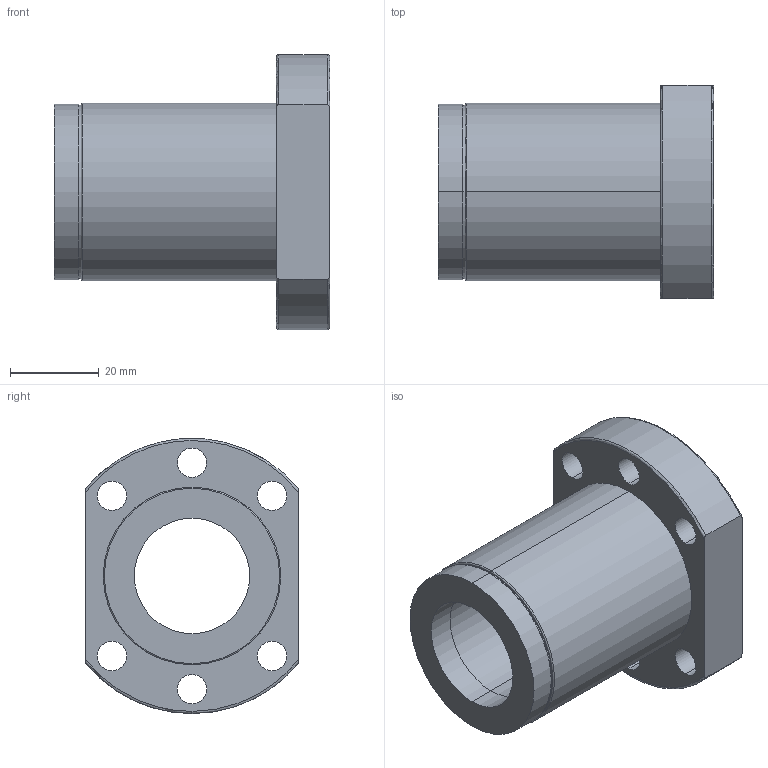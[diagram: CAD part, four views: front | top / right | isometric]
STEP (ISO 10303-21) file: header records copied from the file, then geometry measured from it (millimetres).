
FILE_DESCRIPTION (( 'STEP AP214' ), '1' );
FILE_NAME ('2.3004 Kuularuuvimutteri SFS2510-3,8.STEP', '2024-05-03T10:56:05', ( '' ), ( '' ), 'SwSTEP 2.0', 'SolidWorks 2024', '' );
FILE_SCHEMA (( 'AUTOMOTIVE_DESIGN' ));
Length unit declared in the file: millimetre
Products named in the file (1): 2.3004 Kuularuuvimutteri SFS2510-3,8
Bounding box: 62 x 48 x 61.97 mm (x, y, z)
Volume: 58699.2 mm3; surface area: 23045.7 mm2
Topology: 3 solids, 3 shells, 53 faces, 125 edges, 82 vertices
Faces by surface type: cylinder 33, plane 12, torus 8
Entity records: 2328 total; most frequent: CARTESIAN_POINT 882, DIRECTION 291, ORIENTED_EDGE 250, AXIS2_PLACEMENT_3D 126, EDGE_CURVE 125, VERTEX_POINT 82, EDGE_LOOP 75, CIRCLE 72
